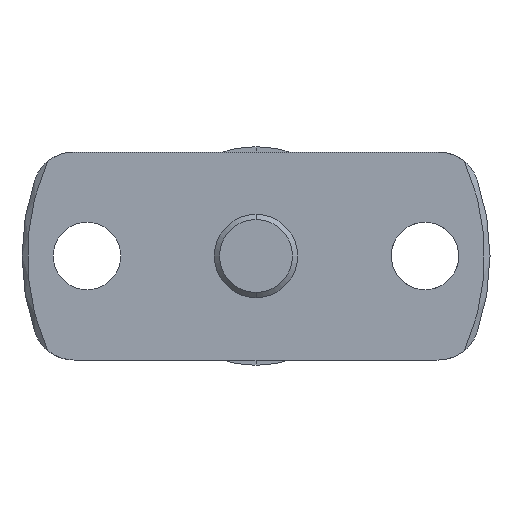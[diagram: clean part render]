
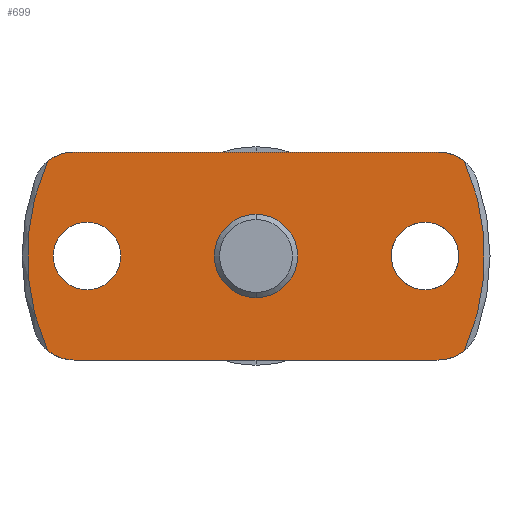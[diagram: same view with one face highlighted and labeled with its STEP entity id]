
A CAD part, front view. The second image highlights one B-rep face of the part: STEP entity #699.
In plain terms, the highlighted planar face has unit normal (0, -1, 0).
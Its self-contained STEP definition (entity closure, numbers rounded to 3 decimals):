
#289=CARTESIAN_POINT('Vertex',(32.5,0.,-6.5)) ;
#292=CARTESIAN_POINT('Axis2P3D Location',(32.5,0.,0.)) ;
#296=CARTESIAN_POINT('Vertex',(32.5,0.,6.5)) ;
#316=CARTESIAN_POINT('Axis2P3D Location',(32.5,0.,0.)) ;
#404=CARTESIAN_POINT('Vertex',(40.062,0.,-18.195)) ;
#407=CARTESIAN_POINT('Axis2P3D Location',(35.,0.,-12.)) ;
#411=CARTESIAN_POINT('Vertex',(35.,0.,-20.)) ;
#435=CARTESIAN_POINT('Line Origine',(0.,0.,-20.)) ;
#439=CARTESIAN_POINT('Vertex',(-35.,0.,-20.)) ;
#522=CARTESIAN_POINT('Line Origine',(0.,0.,20.)) ;
#526=CARTESIAN_POINT('Vertex',(-35.,0.,20.)) ;
#528=CARTESIAN_POINT('Vertex',(35.,0.,20.)) ;
#576=CARTESIAN_POINT('Vertex',(40.062,0.,18.195)) ;
#592=CARTESIAN_POINT('Axis2P3D Location',(35.,0.,12.)) ;
#608=CARTESIAN_POINT('Axis2P3D Location',(8.,0.,0.)) ;
#613=CARTESIAN_POINT('Axis2P3D Location',(0.,0.,0.)) ;
#619=CARTESIAN_POINT('Control Point',(-35.,0.,20.)) ;
#620=CARTESIAN_POINT('Control Point',(-35.831,0.,20.)) ;
#621=CARTESIAN_POINT('Control Point',(-36.663,0.,19.892)) ;
#622=CARTESIAN_POINT('Control Point',(-37.475,0.,19.676)) ;
#623=CARTESIAN_POINT('Control Point',(-38.497,0.,19.255)) ;
#624=CARTESIAN_POINT('Control Point',(-39.426,0.,18.672)) ;
#625=CARTESIAN_POINT('Control Point',(-39.645,0.,18.521)) ;
#626=CARTESIAN_POINT('Control Point',(-39.857,0.,18.362)) ;
#627=CARTESIAN_POINT('Control Point',(-40.062,0.,18.195)) ;
#628=CARTESIAN_POINT('Vertex',(-40.062,0.,18.195)) ;
#631=CARTESIAN_POINT('Axis2P3D Location',(0.,0.,0.)) ;
#635=CARTESIAN_POINT('Vertex',(-40.062,0.,-18.195)) ;
#639=CARTESIAN_POINT('Control Point',(-40.062,0.,-18.195)) ;
#640=CARTESIAN_POINT('Control Point',(-39.418,0.,-18.721)) ;
#641=CARTESIAN_POINT('Control Point',(-38.706,0.,-19.164)) ;
#642=CARTESIAN_POINT('Control Point',(-37.94,0.,-19.51)) ;
#643=CARTESIAN_POINT('Control Point',(-36.882,0.,-19.831)) ;
#644=CARTESIAN_POINT('Control Point',(-35.794,0.,-19.967)) ;
#645=CARTESIAN_POINT('Control Point',(-35.529,0.,-19.989)) ;
#646=CARTESIAN_POINT('Control Point',(-35.265,0.,-20.)) ;
#647=CARTESIAN_POINT('Control Point',(-35.,0.,-20.)) ;
#659=CARTESIAN_POINT('Axis2P3D Location',(-32.5,0.,0.)) ;
#663=CARTESIAN_POINT('Vertex',(-32.5,0.,6.5)) ;
#665=CARTESIAN_POINT('Vertex',(-32.5,0.,-6.5)) ;
#668=CARTESIAN_POINT('Axis2P3D Location',(-32.5,0.,0.)) ;
#681=CARTESIAN_POINT('Axis2P3D Location',(0.,0.,0.)) ;
#685=CARTESIAN_POINT('Vertex',(0.,0.,8.)) ;
#687=CARTESIAN_POINT('Vertex',(0.,0.,-8.)) ;
#690=CARTESIAN_POINT('Axis2P3D Location',(0.,0.,0.)) ;
#293=DIRECTION('Axis2P3D Direction',(0.,1.,0.)) ;
#317=DIRECTION('Axis2P3D Direction',(0.,1.,0.)) ;
#408=DIRECTION('Axis2P3D Direction',(0.,1.,0.)) ;
#436=DIRECTION('Vector Direction',(-1.,0.,0.)) ;
#523=DIRECTION('Vector Direction',(1.,0.,0.)) ;
#593=DIRECTION('Axis2P3D Direction',(0.,1.,0.)) ;
#609=DIRECTION('Axis2P3D Direction',(0.,1.,0.)) ;
#610=DIRECTION('Axis2P3D XDirection',(0.,0.,1.)) ;
#614=DIRECTION('Axis2P3D Direction',(0.,1.,0.)) ;
#632=DIRECTION('Axis2P3D Direction',(0.,1.,0.)) ;
#660=DIRECTION('Axis2P3D Direction',(0.,1.,0.)) ;
#669=DIRECTION('Axis2P3D Direction',(0.,1.,0.)) ;
#682=DIRECTION('Axis2P3D Direction',(0.,1.,0.)) ;
#691=DIRECTION('Axis2P3D Direction',(0.,1.,0.)) ;
#294=AXIS2_PLACEMENT_3D('Circle Axis2P3D',#292,#293,$) ;
#318=AXIS2_PLACEMENT_3D('Circle Axis2P3D',#316,#317,$) ;
#409=AXIS2_PLACEMENT_3D('Circle Axis2P3D',#407,#408,$) ;
#594=AXIS2_PLACEMENT_3D('Circle Axis2P3D',#592,#593,$) ;
#611=AXIS2_PLACEMENT_3D('Plane Axis2P3D',#608,#609,#610) ;
#615=AXIS2_PLACEMENT_3D('Circle Axis2P3D',#613,#614,$) ;
#633=AXIS2_PLACEMENT_3D('Circle Axis2P3D',#631,#632,$) ;
#661=AXIS2_PLACEMENT_3D('Circle Axis2P3D',#659,#660,$) ;
#670=AXIS2_PLACEMENT_3D('Circle Axis2P3D',#668,#669,$) ;
#683=AXIS2_PLACEMENT_3D('Circle Axis2P3D',#681,#682,$) ;
#692=AXIS2_PLACEMENT_3D('Circle Axis2P3D',#690,#691,$) ;
#650=ORIENTED_EDGE('',*,*,#441,.F.) ;
#651=ORIENTED_EDGE('',*,*,#413,.T.) ;
#652=ORIENTED_EDGE('',*,*,#617,.F.) ;
#653=ORIENTED_EDGE('',*,*,#596,.T.) ;
#654=ORIENTED_EDGE('',*,*,#530,.F.) ;
#655=ORIENTED_EDGE('',*,*,#630,.T.) ;
#656=ORIENTED_EDGE('',*,*,#637,.F.) ;
#657=ORIENTED_EDGE('',*,*,#648,.T.) ;
#674=ORIENTED_EDGE('',*,*,#667,.T.) ;
#675=ORIENTED_EDGE('',*,*,#672,.T.) ;
#678=ORIENTED_EDGE('',*,*,#298,.T.) ;
#679=ORIENTED_EDGE('',*,*,#320,.T.) ;
#696=ORIENTED_EDGE('',*,*,#689,.T.) ;
#697=ORIENTED_EDGE('',*,*,#694,.T.) ;
#676=FACE_BOUND('',#673,.T.) ;
#680=FACE_BOUND('',#677,.T.) ;
#698=FACE_BOUND('',#695,.T.) ;
#437=VECTOR('Line Direction',#436,1.) ;
#524=VECTOR('Line Direction',#523,1.) ;
#699=ADVANCED_FACE('NONE',(#658,#676,#680,#698),#612,.F.) ;
#618=B_SPLINE_CURVE_WITH_KNOTS('',5,(#619,#620,#621,#622,#623,#624,#625,#626,#627),.UNSPECIFIED.,.F.,.U.,(6,3,6),(0.,5.879,7.749),.UNSPECIFIED.) ;
#638=B_SPLINE_CURVE_WITH_KNOTS('',5,(#639,#640,#641,#642,#643,#644,#645,#646,#647),.UNSPECIFIED.,.F.,.U.,(6,3,6),(0.,5.879,7.749),.UNSPECIFIED.) ;
#295=CIRCLE('generated circle',#294,6.5) ;
#319=CIRCLE('generated circle',#318,6.5) ;
#410=CIRCLE('generated circle',#409,8.) ;
#595=CIRCLE('generated circle',#594,8.) ;
#616=CIRCLE('generated circle',#615,44.) ;
#634=CIRCLE('generated circle',#633,44.) ;
#662=CIRCLE('generated circle',#661,6.5) ;
#671=CIRCLE('generated circle',#670,6.5) ;
#684=CIRCLE('generated circle',#683,8.) ;
#693=CIRCLE('generated circle',#692,8.) ;
#298=EDGE_CURVE('',#297,#290,#295,.T.) ;
#320=EDGE_CURVE('',#290,#297,#319,.T.) ;
#413=EDGE_CURVE('',#412,#405,#410,.F.) ;
#441=EDGE_CURVE('',#412,#440,#438,.T.) ;
#530=EDGE_CURVE('',#527,#529,#525,.T.) ;
#596=EDGE_CURVE('',#577,#529,#595,.F.) ;
#617=EDGE_CURVE('',#577,#405,#616,.T.) ;
#630=EDGE_CURVE('',#527,#629,#618,.T.) ;
#637=EDGE_CURVE('',#636,#629,#634,.T.) ;
#648=EDGE_CURVE('',#636,#440,#638,.T.) ;
#667=EDGE_CURVE('',#664,#666,#662,.T.) ;
#672=EDGE_CURVE('',#666,#664,#671,.T.) ;
#689=EDGE_CURVE('',#686,#688,#684,.T.) ;
#694=EDGE_CURVE('',#688,#686,#693,.T.) ;
#649=EDGE_LOOP('',(#650,#651,#652,#653,#654,#655,#656,#657)) ;
#673=EDGE_LOOP('',(#674,#675)) ;
#677=EDGE_LOOP('',(#678,#679)) ;
#695=EDGE_LOOP('',(#696,#697)) ;
#658=FACE_OUTER_BOUND('',#649,.T.) ;
#438=LINE('Line',#435,#437) ;
#525=LINE('Line',#522,#524) ;
#612=PLANE('Plane',#611) ;
#290=VERTEX_POINT('',#289) ;
#297=VERTEX_POINT('',#296) ;
#405=VERTEX_POINT('',#404) ;
#412=VERTEX_POINT('',#411) ;
#440=VERTEX_POINT('',#439) ;
#527=VERTEX_POINT('',#526) ;
#529=VERTEX_POINT('',#528) ;
#577=VERTEX_POINT('',#576) ;
#629=VERTEX_POINT('',#628) ;
#636=VERTEX_POINT('',#635) ;
#664=VERTEX_POINT('',#663) ;
#666=VERTEX_POINT('',#665) ;
#686=VERTEX_POINT('',#685) ;
#688=VERTEX_POINT('',#687) ;
